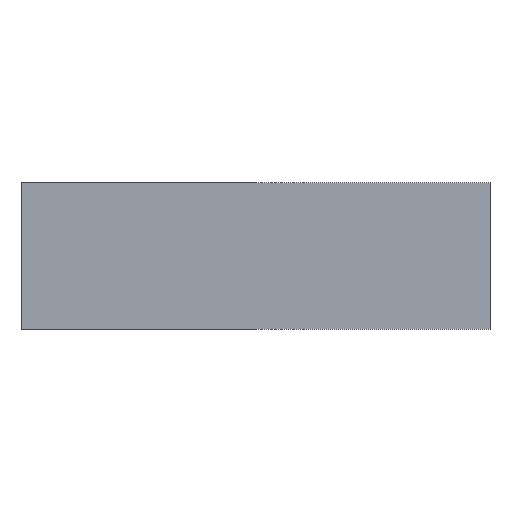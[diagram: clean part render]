
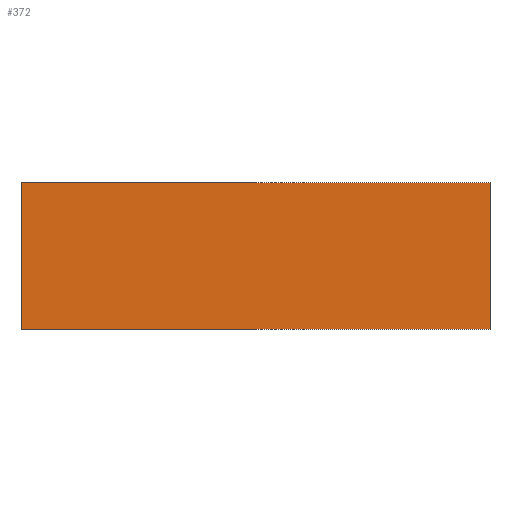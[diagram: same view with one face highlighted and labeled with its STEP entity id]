
A CAD part, front view. The second image highlights one B-rep face of the part: STEP entity #372.
In plain terms, the highlighted planar face has unit normal (0, -1, 0).
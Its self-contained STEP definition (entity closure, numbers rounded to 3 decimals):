
#146 = EDGE_LOOP ( 'NONE', ( #890, #889, #888, #887 ) ) ;
#275 = DIRECTION ( 'NONE',  ( 0., 0., -1. ) ) ;
#278 = CARTESIAN_POINT ( 'NONE',  ( -104., 0., 65. ) ) ;
#280 = DIRECTION ( 'NONE',  ( 0., 0., -1. ) ) ;
#282 = CARTESIAN_POINT ( 'NONE',  ( 104., 0., 65. ) ) ;
#298 = DIRECTION ( 'NONE',  ( 1., 0., 0. ) ) ;
#300 = CARTESIAN_POINT ( 'NONE',  ( -104., 0., 0. ) ) ;
#312 = CARTESIAN_POINT ( 'NONE',  ( -104., 0., 0. ) ) ;
#323 = CARTESIAN_POINT ( 'NONE',  ( 104., 0., 0. ) ) ;
#325 = CARTESIAN_POINT ( 'NONE',  ( -104., 0., 65. ) ) ;
#349 = DIRECTION ( 'NONE',  ( 1., 0., 0. ) ) ;
#351 = CARTESIAN_POINT ( 'NONE',  ( -104., 0., 65. ) ) ;
#372 = ADVANCED_FACE ( 'NONE', ( #860 ), #555, .F. ) ;
#393 = VERTEX_POINT ( 'NONE', #459 ) ;
#459 = CARTESIAN_POINT ( 'NONE',  ( 104., 0., 65. ) ) ;
#490 = VERTEX_POINT ( 'NONE', #312 ) ;
#525 = VERTEX_POINT ( 'NONE', #323 ) ;
#532 = VERTEX_POINT ( 'NONE', #325 ) ;
#545 = DIRECTION ( 'NONE',  ( -1., 0., 0. ) ) ;
#546 = DIRECTION ( 'NONE',  ( 0., 1., 0. ) ) ;
#552 = CARTESIAN_POINT ( 'NONE',  ( -104., 0., 65. ) ) ;
#555 = PLANE ( 'NONE',  #670 ) ;
#625 = EDGE_CURVE ( 'NONE', #532, #393, #756, .T. ) ;
#639 = EDGE_CURVE ( 'NONE', #490, #525, #728, .T. ) ;
#646 = EDGE_CURVE ( 'NONE', #393, #525, #714, .T. ) ;
#647 = EDGE_CURVE ( 'NONE', #532, #490, #712, .T. ) ;
#670 = AXIS2_PLACEMENT_3D ( 'NONE', #552, #546, #545 ) ;
#711 = VECTOR ( 'NONE', #275, 1000. ) ;
#712 = LINE ( 'NONE', #278, #711 ) ;
#713 = VECTOR ( 'NONE', #280, 1000. ) ;
#714 = LINE ( 'NONE', #282, #713 ) ;
#727 = VECTOR ( 'NONE', #298, 1000. ) ;
#728 = LINE ( 'NONE', #300, #727 ) ;
#755 = VECTOR ( 'NONE', #349, 1000. ) ;
#756 = LINE ( 'NONE', #351, #755 ) ;
#860 = FACE_OUTER_BOUND ( 'NONE', #146, .T. ) ;
#887 = ORIENTED_EDGE ( 'NONE', *, *, #647, .T. ) ;
#888 = ORIENTED_EDGE ( 'NONE', *, *, #625, .F. ) ;
#889 = ORIENTED_EDGE ( 'NONE', *, *, #646, .F. ) ;
#890 = ORIENTED_EDGE ( 'NONE', *, *, #639, .T. ) ;
